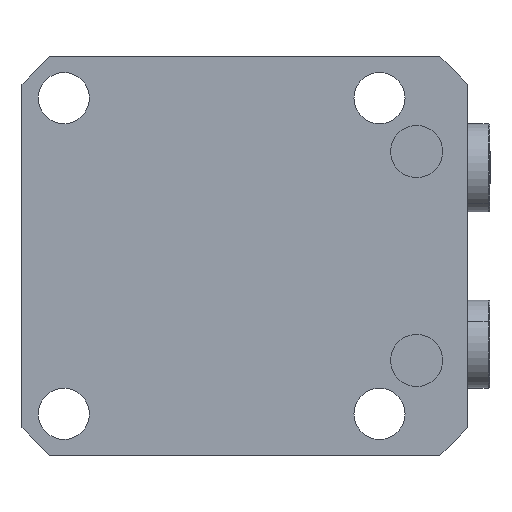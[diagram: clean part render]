
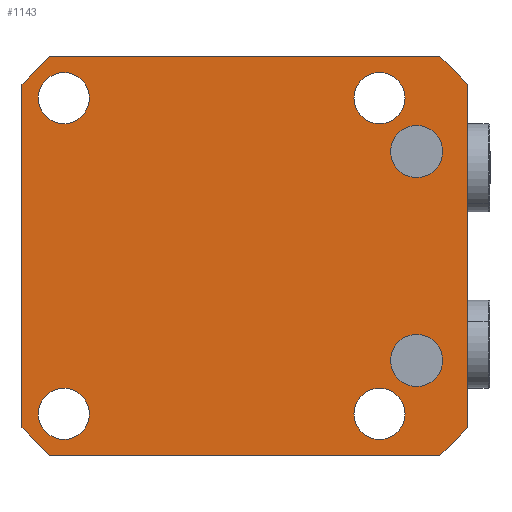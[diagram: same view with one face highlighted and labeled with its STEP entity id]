
A CAD part, front view. The second image highlights one B-rep face of the part: STEP entity #1143.
In plain terms, the highlighted planar face has unit normal (0, -1, 0).
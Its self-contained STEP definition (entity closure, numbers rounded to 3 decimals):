
#229=PLANE('',#4331);
#298=FACE_BOUND('',#1612,.T.);
#299=FACE_BOUND('',#1613,.T.);
#300=FACE_BOUND('',#1614,.T.);
#301=FACE_BOUND('',#1615,.T.);
#302=FACE_BOUND('',#1616,.T.);
#303=FACE_BOUND('',#1617,.T.);
#304=FACE_BOUND('',#1618,.T.);
#642=LINE('',#6684,#911);
#651=LINE('',#6712,#920);
#658=LINE('',#6731,#927);
#663=LINE('',#6747,#932);
#669=LINE('',#6772,#938);
#670=LINE('',#6773,#939);
#671=LINE('',#6774,#940);
#672=LINE('',#6775,#941);
#911=VECTOR('',#5415,1.);
#920=VECTOR('',#5450,1.);
#927=VECTOR('',#5459,1.);
#932=VECTOR('',#5466,1.);
#938=VECTOR('',#5478,1.);
#939=VECTOR('',#5479,1.);
#940=VECTOR('',#5480,1.);
#941=VECTOR('',#5481,1.);
#1143=ADVANCED_FACE('',(#298,#299,#300,#301,#302,#303,#304),#229,.T.);
#1612=EDGE_LOOP('',(#2550,#2551));
#1613=EDGE_LOOP('',(#2552,#2553));
#1614=EDGE_LOOP('',(#2554,#2555));
#1615=EDGE_LOOP('',(#2556,#2557));
#1616=EDGE_LOOP('',(#2558,#2559));
#1617=EDGE_LOOP('',(#2560,#2561));
#1618=EDGE_LOOP('',(#2562,#2563,#2564,#2565,#2566,#2567,#2568,#2569));
#2550=ORIENTED_EDGE('',*,*,#3612,.F.);
#2551=ORIENTED_EDGE('',*,*,#3467,.F.);
#2552=ORIENTED_EDGE('',*,*,#3613,.F.);
#2553=ORIENTED_EDGE('',*,*,#3471,.F.);
#2554=ORIENTED_EDGE('',*,*,#3588,.T.);
#2555=ORIENTED_EDGE('',*,*,#3505,.T.);
#2556=ORIENTED_EDGE('',*,*,#3584,.T.);
#2557=ORIENTED_EDGE('',*,*,#3513,.T.);
#2558=ORIENTED_EDGE('',*,*,#3582,.T.);
#2559=ORIENTED_EDGE('',*,*,#3517,.T.);
#2560=ORIENTED_EDGE('',*,*,#3586,.T.);
#2561=ORIENTED_EDGE('',*,*,#3509,.T.);
#2562=ORIENTED_EDGE('',*,*,#3604,.F.);
#2563=ORIENTED_EDGE('',*,*,#3614,.T.);
#2564=ORIENTED_EDGE('',*,*,#3590,.F.);
#2565=ORIENTED_EDGE('',*,*,#3615,.T.);
#2566=ORIENTED_EDGE('',*,*,#3573,.F.);
#2567=ORIENTED_EDGE('',*,*,#3616,.T.);
#2568=ORIENTED_EDGE('',*,*,#3598,.F.);
#2569=ORIENTED_EDGE('',*,*,#3617,.T.);
#2988=VERTEX_POINT('',#6451);
#2989=VERTEX_POINT('',#6453);
#2992=VERTEX_POINT('',#6460);
#2993=VERTEX_POINT('',#6462);
#3022=VERTEX_POINT('',#6540);
#3023=VERTEX_POINT('',#6541);
#3026=VERTEX_POINT('',#6549);
#3027=VERTEX_POINT('',#6550);
#3030=VERTEX_POINT('',#6558);
#3031=VERTEX_POINT('',#6559);
#3034=VERTEX_POINT('',#6567);
#3035=VERTEX_POINT('',#6568);
#3078=VERTEX_POINT('',#6685);
#3079=VERTEX_POINT('',#6686);
#3084=VERTEX_POINT('',#6713);
#3085=VERTEX_POINT('',#6714);
#3091=VERTEX_POINT('',#6732);
#3092=VERTEX_POINT('',#6733);
#3096=VERTEX_POINT('',#6746);
#3097=VERTEX_POINT('',#6748);
#3467=EDGE_CURVE('',#2988,#2989,#3860,.T.);
#3471=EDGE_CURVE('',#2992,#2993,#3862,.T.);
#3505=EDGE_CURVE('',#3022,#3023,#3876,.T.);
#3509=EDGE_CURVE('',#3026,#3027,#3878,.T.);
#3513=EDGE_CURVE('',#3030,#3031,#3880,.T.);
#3517=EDGE_CURVE('',#3034,#3035,#3882,.T.);
#3573=EDGE_CURVE('',#3078,#3079,#642,.T.);
#3582=EDGE_CURVE('',#3035,#3034,#3886,.T.);
#3584=EDGE_CURVE('',#3031,#3030,#3888,.T.);
#3586=EDGE_CURVE('',#3027,#3026,#3890,.T.);
#3588=EDGE_CURVE('',#3023,#3022,#3892,.T.);
#3590=EDGE_CURVE('',#3084,#3085,#651,.T.);
#3598=EDGE_CURVE('',#3091,#3092,#658,.T.);
#3604=EDGE_CURVE('',#3096,#3097,#663,.T.);
#3612=EDGE_CURVE('',#2989,#2988,#3894,.T.);
#3613=EDGE_CURVE('',#2993,#2992,#3895,.T.);
#3614=EDGE_CURVE('',#3096,#3085,#669,.T.);
#3615=EDGE_CURVE('',#3084,#3079,#670,.T.);
#3616=EDGE_CURVE('',#3078,#3092,#671,.T.);
#3617=EDGE_CURVE('',#3091,#3097,#672,.T.);
#3860=CIRCLE('',#4261,5.6);
#3862=CIRCLE('',#4264,5.6);
#3876=CIRCLE('',#4288,5.5);
#3878=CIRCLE('',#4291,5.5);
#3880=CIRCLE('',#4294,5.5);
#3882=CIRCLE('',#4297,5.5);
#3886=CIRCLE('',#4314,5.5);
#3888=CIRCLE('',#4317,5.5);
#3890=CIRCLE('',#4320,5.5);
#3892=CIRCLE('',#4323,5.5);
#3894=CIRCLE('',#4329,5.6);
#3895=CIRCLE('',#4330,5.6);
#4261=AXIS2_PLACEMENT_3D('',#6452,#5234,#5235);
#4264=AXIS2_PLACEMENT_3D('',#6461,#5242,#5243);
#4288=AXIS2_PLACEMENT_3D('',#6539,#5309,#5310);
#4291=AXIS2_PLACEMENT_3D('',#6548,#5317,#5318);
#4294=AXIS2_PLACEMENT_3D('',#6557,#5325,#5326);
#4297=AXIS2_PLACEMENT_3D('',#6566,#5333,#5334);
#4314=AXIS2_PLACEMENT_3D('',#6700,#5426,#5427);
#4317=AXIS2_PLACEMENT_3D('',#6703,#5432,#5433);
#4320=AXIS2_PLACEMENT_3D('',#6706,#5438,#5439);
#4323=AXIS2_PLACEMENT_3D('',#6709,#5444,#5445);
#4329=AXIS2_PLACEMENT_3D('',#6770,#5474,#5475);
#4330=AXIS2_PLACEMENT_3D('',#6771,#5476,#5477);
#4331=AXIS2_PLACEMENT_3D('',#6776,#5482,#5483);
#5234=DIRECTION('',(0.,-1.,0.));
#5235=DIRECTION('',(0.,0.,-1.));
#5242=DIRECTION('',(0.,-1.,0.));
#5243=DIRECTION('',(0.,0.,-1.));
#5309=DIRECTION('',(0.,1.,0.));
#5310=DIRECTION('',(0.,0.,-1.));
#5317=DIRECTION('',(0.,1.,0.));
#5318=DIRECTION('',(0.,0.,-1.));
#5325=DIRECTION('',(0.,1.,0.));
#5326=DIRECTION('',(0.,0.,-1.));
#5333=DIRECTION('',(0.,1.,0.));
#5334=DIRECTION('',(0.,0.,-1.));
#5415=DIRECTION('',(1.,0.,0.));
#5426=DIRECTION('',(0.,1.,0.));
#5427=DIRECTION('',(0.,0.,-1.));
#5432=DIRECTION('',(0.,1.,0.));
#5433=DIRECTION('',(0.,0.,-1.));
#5438=DIRECTION('',(0.,1.,0.));
#5439=DIRECTION('',(0.,0.,-1.));
#5444=DIRECTION('',(0.,1.,0.));
#5445=DIRECTION('',(0.,0.,-1.));
#5450=DIRECTION('',(0.,0.,-1.));
#5459=DIRECTION('',(0.,0.,1.));
#5466=DIRECTION('',(-1.,0.,0.));
#5474=DIRECTION('',(0.,-1.,0.));
#5475=DIRECTION('',(0.,0.,-1.));
#5476=DIRECTION('',(0.,-1.,0.));
#5477=DIRECTION('',(0.,0.,-1.));
#5478=DIRECTION('',(0.707,0.,0.707));
#5479=DIRECTION('',(-0.707,0.,0.707));
#5480=DIRECTION('',(-0.707,0.,-0.707));
#5481=DIRECTION('',(0.707,0.,-0.707));
#5482=DIRECTION('',(0.,-1.,0.));
#5483=DIRECTION('',(0.,0.,-1.));
#6451=CARTESIAN_POINT('',(-42.,-95.,-16.9));
#6452=CARTESIAN_POINT('',(-42.,-95.,-22.5));
#6453=CARTESIAN_POINT('',(-42.,-95.,-28.1));
#6460=CARTESIAN_POINT('',(-42.,-95.,28.1));
#6461=CARTESIAN_POINT('',(-42.,-95.,22.5));
#6462=CARTESIAN_POINT('',(-42.,-95.,16.9));
#6539=CARTESIAN_POINT('',(-34.,-95.,-34.));
#6540=CARTESIAN_POINT('',(-34.,-95.,-39.5));
#6541=CARTESIAN_POINT('',(-34.,-95.,-28.5));
#6548=CARTESIAN_POINT('',(34.,-95.,34.));
#6549=CARTESIAN_POINT('',(34.,-95.,28.5));
#6550=CARTESIAN_POINT('',(34.,-95.,39.5));
#6557=CARTESIAN_POINT('',(-34.,-95.,34.));
#6558=CARTESIAN_POINT('',(-34.,-95.,28.5));
#6559=CARTESIAN_POINT('',(-34.,-95.,39.5));
#6566=CARTESIAN_POINT('',(34.,-95.,-34.));
#6567=CARTESIAN_POINT('',(34.,-95.,-39.5));
#6568=CARTESIAN_POINT('',(34.,-95.,-28.5));
#6684=CARTESIAN_POINT('',(43.,-95.,43.));
#6685=CARTESIAN_POINT('',(-47.,-95.,43.));
#6686=CARTESIAN_POINT('',(37.,-95.,43.));
#6700=CARTESIAN_POINT('',(34.,-95.,-34.));
#6703=CARTESIAN_POINT('',(-34.,-95.,34.));
#6706=CARTESIAN_POINT('',(34.,-95.,34.));
#6709=CARTESIAN_POINT('',(-34.,-95.,-34.));
#6712=CARTESIAN_POINT('',(43.,-95.,-43.));
#6713=CARTESIAN_POINT('',(43.,-95.,37.));
#6714=CARTESIAN_POINT('',(43.,-95.,-37.));
#6731=CARTESIAN_POINT('',(-53.,-95.,43.));
#6732=CARTESIAN_POINT('',(-53.,-95.,-37.));
#6733=CARTESIAN_POINT('',(-53.,-95.,37.));
#6746=CARTESIAN_POINT('',(37.,-95.,-43.));
#6747=CARTESIAN_POINT('',(43.,-95.,-43.));
#6748=CARTESIAN_POINT('',(-47.,-95.,-43.));
#6770=CARTESIAN_POINT('',(-42.,-95.,-22.5));
#6771=CARTESIAN_POINT('',(-42.,-95.,22.5));
#6772=CARTESIAN_POINT('',(83.,-95.,3.));
#6773=CARTESIAN_POINT('',(40.,-95.,40.));
#6774=CARTESIAN_POINT('',(-2.,-95.,88.));
#6775=CARTESIAN_POINT('',(-45.,-95.,-45.));
#6776=CARTESIAN_POINT('',(43.,-95.,43.));
